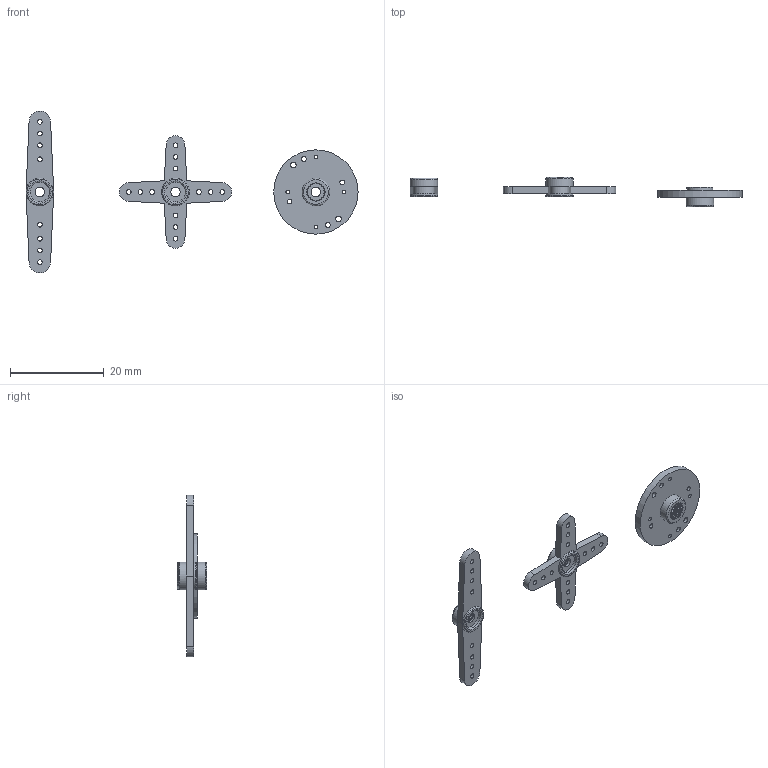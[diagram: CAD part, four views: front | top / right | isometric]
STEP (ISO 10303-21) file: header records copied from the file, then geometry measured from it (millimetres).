
FILE_DESCRIPTION(/* description */ (''),/* implementation_level */ '2;1');
FILE_NAME(/* name */ 'SC09_ARM.step',/* time_stamp */ '2024-10-29T18:39:55+08:00',/* author */ (''),/* organization */ (''),/* preprocessor_version */ 'ST-DEVELOPER v20',/* originating_system */ 'Autodesk Translation Framework v13.20.0.188',/* authorisation */ '');
FILE_SCHEMA (('AUTOMOTIVE_DESIGN { 1 0 10303 214 3 1 1 }'));
Length unit declared in the file: millimetre
Products named in the file (3): SJ-BB00-0025-TENARM-0716_27; SJ-BB00-0024-CYCLE-0716_9; SJ-BB00-0026-ONEARM-0716_16
Assembly tree (2 placements, depth 2):
  SJ-BB00-0025-TENARM-0716_27
    SJ-BB00-0024-CYCLE-0716_9
    SJ-BB00-0026-ONEARM-0716_16
Bounding box: 70.96 x 6.25 x 34.6 mm (x, y, z)
Volume: 960.9 mm3; surface area: 1941.4 mm2
Topology: 5 solids, 5 shells, 337 faces, 945 edges, 630 vertices
Faces by surface type: cylinder 171, plane 158, torus 8
Full cylindrical faces by diameter (mm): 0.8 x4, 1 x24, 1.2 x2, 2 x3, 4.2 x3, 5.6 x1, 5.9 x5, 18 x1
Entity records: 11201 total; most frequent: DIRECTION 1995, CARTESIAN_POINT 1917, ORIENTED_EDGE 1890, EDGE_CURVE 945, AXIS2_PLACEMENT_3D 708, VERTEX_POINT 630, LINE 579, VECTOR 579
